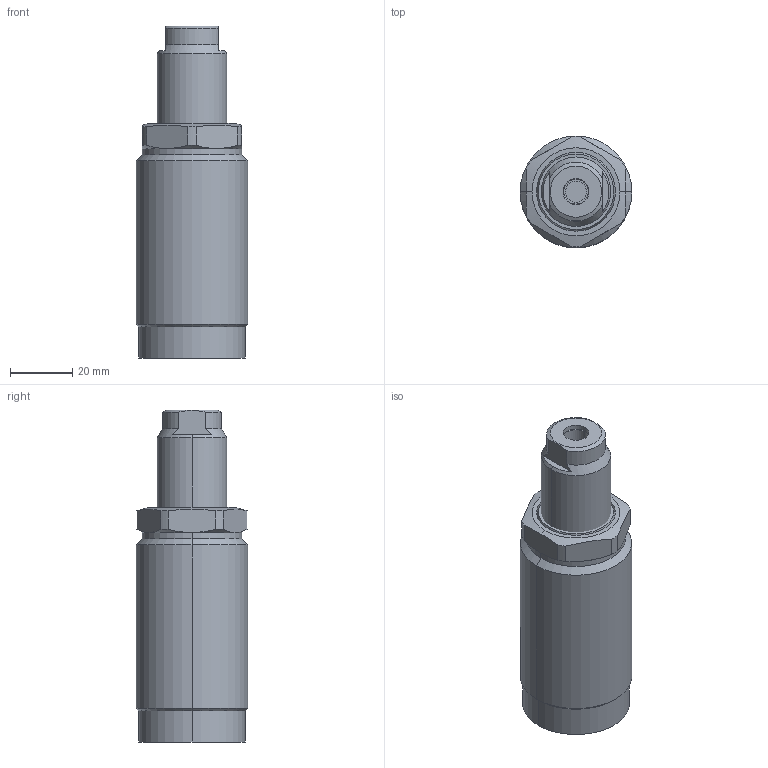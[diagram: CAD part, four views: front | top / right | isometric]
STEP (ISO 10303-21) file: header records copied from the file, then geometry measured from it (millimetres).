
FILE_DESCRIPTION (( 'STEP AP203' ), '1' );
FILE_NAME ('650361-AL.step', '2016-11-02T03:14:20', ( 'wxp' ), ( '' ), 'SwSTEP 2.0', 'SolidWorks 2011', '' );
FILE_SCHEMA (( 'CONFIG_CONTROL_DESIGN' ));
Length unit declared in the file: millimetre
Products named in the file (3): 650361-AL; 葩璃 650361-AL.sldasm-Part-2^650361-AL; 葩璃 650361-AL.sldasm-Part-1^650361-AL
Assembly tree (2 placements, depth 2):
  650361-AL
    葩璃 650361-AL.sldasm-Part-1^650361-AL
    葩璃 650361-AL.sldasm-Part-2^650361-AL
Bounding box: 36 x 36 x 107 mm (x, y, z)
Volume: 85179.2 mm3; surface area: 14363.4 mm2
Topology: 2 solids, 2 shells, 86 faces, 198 edges, 123 vertices
Faces by surface type: cylinder 34, plane 28, cone 18, torus 6
Entity records: 2841 total; most frequent: CARTESIAN_POINT 590, DIRECTION 438, ORIENTED_EDGE 392, EDGE_CURVE 196, AXIS2_PLACEMENT_3D 191, VERTEX_POINT 123, CIRCLE 100, EDGE_LOOP 95
